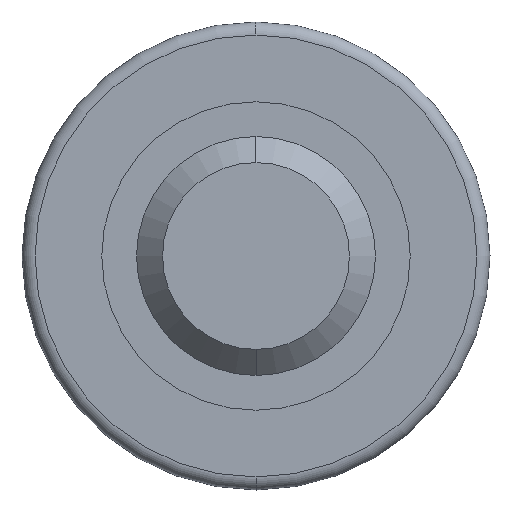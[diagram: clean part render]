
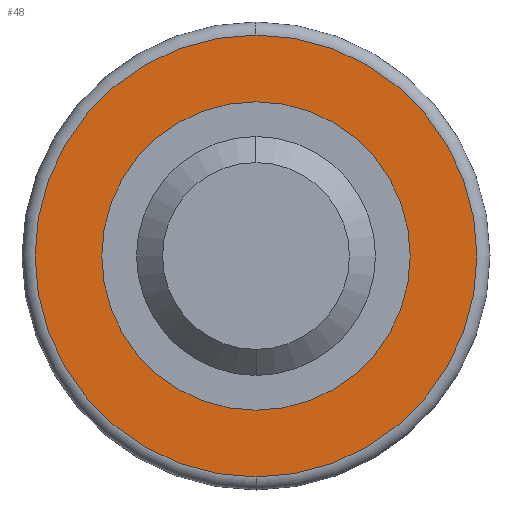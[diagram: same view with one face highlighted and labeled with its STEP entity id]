
A CAD part, left-side view. The second image highlights one B-rep face of the part: STEP entity #48.
In plain terms, the highlighted planar face has unit normal (-1, 0, 0).
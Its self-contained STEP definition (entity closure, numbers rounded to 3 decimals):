
#12 = ORIENTED_EDGE ( 'NONE', *, *, #692, .F. ) ;
#22 = EDGE_LOOP ( 'NONE', ( #709, #672 ) ) ;
#48 = ADVANCED_FACE ( 'NONE', ( #524, #525 ), #526, .T. ) ;
#53 = ORIENTED_EDGE ( 'NONE', *, *, #163, .F. ) ;
#82 = VERTEX_POINT ( 'NONE', #296 ) ;
#89 = VERTEX_POINT ( 'NONE', #397 ) ;
#130 = CARTESIAN_POINT ( 'NONE',  ( 19., 0., 35.5 ) ) ;
#142 = CIRCLE ( 'NONE', #143, 35.5 ) ;
#143 = AXIS2_PLACEMENT_3D ( 'NONE', #146, #147, #148 ) ;
#146 = CARTESIAN_POINT ( 'NONE',  ( 19., 0., 0. ) ) ;
#147 = DIRECTION ( 'NONE',  ( 1., 0., 0. ) ) ;
#148 = DIRECTION ( 'NONE',  ( 0., 0., -1. ) ) ;
#163 = EDGE_CURVE ( 'NONE', #82, #89, #494, .T. ) ;
#165 = EDGE_LOOP ( 'NONE', ( #53, #12 ) ) ;
#205 = CIRCLE ( 'NONE', #206, 35.5 ) ;
#206 = AXIS2_PLACEMENT_3D ( 'NONE', #207, #208, #209 ) ;
#207 = CARTESIAN_POINT ( 'NONE',  ( 19., 0., 0. ) ) ;
#208 = DIRECTION ( 'NONE',  ( 1., 0., 0. ) ) ;
#209 = DIRECTION ( 'NONE',  ( 0., 0., -1. ) ) ;
#234 = CIRCLE ( 'NONE', #236, 50.85 ) ;
#236 = AXIS2_PLACEMENT_3D ( 'NONE', #237, #238, #239 ) ;
#237 = CARTESIAN_POINT ( 'NONE',  ( 19., 0., 0. ) ) ;
#238 = DIRECTION ( 'NONE',  ( 1., 0., 0. ) ) ;
#239 = DIRECTION ( 'NONE',  ( 0., 0., -1. ) ) ;
#296 = CARTESIAN_POINT ( 'NONE',  ( 19., 0., -50.85 ) ) ;
#304 = VERTEX_POINT ( 'NONE', #130 ) ;
#326 = EDGE_CURVE ( 'NONE', #584, #304, #142, .T. ) ;
#366 = CARTESIAN_POINT ( 'NONE',  ( 19., 0., -35.5 ) ) ;
#383 = EDGE_CURVE ( 'NONE', #304, #584, #205, .T. ) ;
#397 = CARTESIAN_POINT ( 'NONE',  ( 19., 0., 50.85 ) ) ;
#494 = CIRCLE ( 'NONE', #495, 50.85 ) ;
#495 = AXIS2_PLACEMENT_3D ( 'NONE', #496, #497, #498 ) ;
#496 = CARTESIAN_POINT ( 'NONE',  ( 19., 0., 0. ) ) ;
#497 = DIRECTION ( 'NONE',  ( 1., 0., 0. ) ) ;
#498 = DIRECTION ( 'NONE',  ( 0., 0., -1. ) ) ;
#524 = FACE_BOUND ( 'NONE', #22, .T. ) ;
#525 = FACE_OUTER_BOUND ( 'NONE', #165, .T. ) ;
#526 = PLANE ( 'NONE',  #527 ) ;
#527 = AXIS2_PLACEMENT_3D ( 'NONE', #528, #529, #530 ) ;
#528 = CARTESIAN_POINT ( 'NONE',  ( 19., 35.5, 0. ) ) ;
#529 = DIRECTION ( 'NONE',  ( -1., 0., 0. ) ) ;
#530 = DIRECTION ( 'NONE',  ( 0., 0., 1. ) ) ;
#584 = VERTEX_POINT ( 'NONE', #366 ) ;
#672 = ORIENTED_EDGE ( 'NONE', *, *, #383, .T. ) ;
#692 = EDGE_CURVE ( 'NONE', #89, #82, #234, .T. ) ;
#709 = ORIENTED_EDGE ( 'NONE', *, *, #326, .T. ) ;
